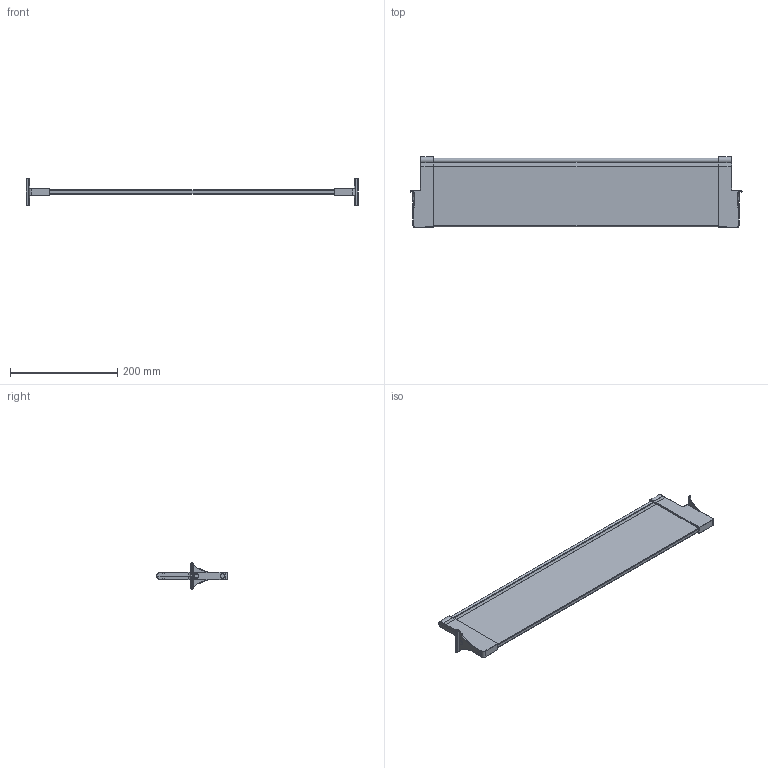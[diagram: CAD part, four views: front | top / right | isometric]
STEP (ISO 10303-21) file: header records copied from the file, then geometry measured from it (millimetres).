
FILE_DESCRIPTION (( 'STEP AP214' ), '1' );
FILE_NAME ('Nova-Pro P622 Querteiler H90Nova PRO Querteiler_H90_KAB 700_16.step', '2009-11-06T06:59:32', ( 'Waldinger Reinhard' ), ( 'Grass GmbH' ), 'SwSTEP 2.0', 'SolidWorks 2009', '' );
FILE_SCHEMA (( 'AUTOMOTIVE_DESIGN' ));
Length unit declared in the file: millimetre
Products named in the file (1): Nova-Pro P622 Querteiler H90Nova PRO Querteiler_H90_KAB 700_16
Bounding box: 618.1 x 132 x 49.97 mm (x, y, z)
Volume: 653059.6 mm3; surface area: 168445.5 mm2
Topology: 1 solids, 1 shells, 248 faces, 578 edges, 334 vertices
Faces by surface type: cylinder 107, bspline 64, plane 51, torus 12, sphere 12, cone 2
Entity records: 11002 total; most frequent: CARTESIAN_POINT 5879, ORIENTED_EDGE 1148, DIRECTION 966, EDGE_CURVE 574, AXIS2_PLACEMENT_3D 369, VERTEX_POINT 334, EDGE_LOOP 254, ADVANCED_FACE 248
